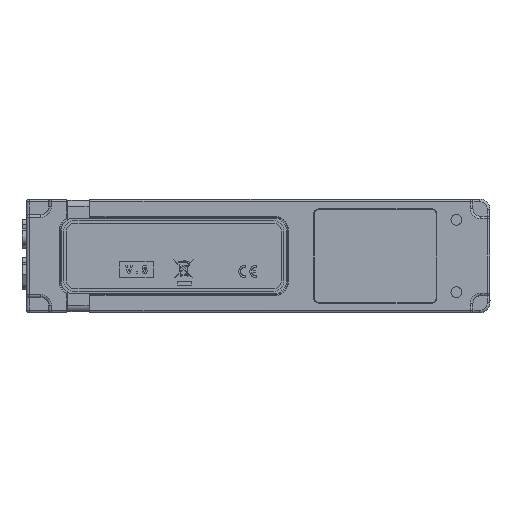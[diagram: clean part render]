
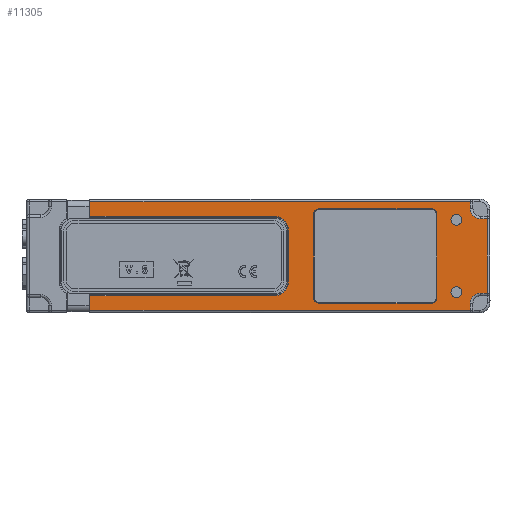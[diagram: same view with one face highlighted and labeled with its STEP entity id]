
A CAD part, left-side view. The second image highlights one B-rep face of the part: STEP entity #11305.
In plain terms, the highlighted planar face has unit normal (-1, 0, 0).
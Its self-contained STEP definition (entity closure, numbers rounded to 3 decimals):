
#11305=ADVANCED_FACE('',(#13157,#13158,#13159,#13160),#12029,.T.);
#12029=PLANE('',#47133);
#12631=CIRCLE('',#47047,1.8);
#12634=CIRCLE('',#47052,1.8);
#12637=CIRCLE('',#47057,1.8);
#12639=CIRCLE('',#47061,1.8);
#12643=CIRCLE('',#47067,4.);
#12646=CIRCLE('',#47073,4.);
#12650=CIRCLE('',#47078,5.3);
#12653=CIRCLE('',#47083,5.3);
#12654=CIRCLE('',#47085,2.1);
#12655=CIRCLE('',#47087,2.1);
#13157=FACE_BOUND('',#14211,.T.);
#13158=FACE_BOUND('',#14212,.T.);
#13159=FACE_BOUND('',#14213,.T.);
#13160=FACE_BOUND('',#14214,.T.);
#14211=EDGE_LOOP('',(#26351,#26352,#26353,#26354,#26355,#26356,#26357,#26358));
#14212=EDGE_LOOP('',(#26359,#26360,#26361,#26362,#26363,#26364,#26365,#26366,
#26367,#26368,#26369,#26370,#26371,#26372,#26373,#26374));
#14213=EDGE_LOOP('',(#26375));
#14214=EDGE_LOOP('',(#26376));
#26351=ORIENTED_EDGE('',*,*,#39626,.T.);
#26352=ORIENTED_EDGE('',*,*,#39628,.T.);
#26353=ORIENTED_EDGE('',*,*,#39630,.T.);
#26354=ORIENTED_EDGE('',*,*,#39632,.T.);
#26355=ORIENTED_EDGE('',*,*,#39634,.T.);
#26356=ORIENTED_EDGE('',*,*,#39636,.T.);
#26357=ORIENTED_EDGE('',*,*,#39638,.T.);
#26358=ORIENTED_EDGE('',*,*,#39639,.T.);
#26359=ORIENTED_EDGE('',*,*,#39697,.T.);
#26360=ORIENTED_EDGE('',*,*,#39732,.T.);
#26361=ORIENTED_EDGE('',*,*,#39733,.T.);
#26362=ORIENTED_EDGE('',*,*,#39641,.T.);
#26363=ORIENTED_EDGE('',*,*,#39645,.T.);
#26364=ORIENTED_EDGE('',*,*,#39646,.T.);
#26365=ORIENTED_EDGE('',*,*,#39681,.T.);
#26366=ORIENTED_EDGE('',*,*,#39648,.T.);
#26367=ORIENTED_EDGE('',*,*,#39651,.T.);
#26368=ORIENTED_EDGE('',*,*,#39663,.T.);
#26369=ORIENTED_EDGE('',*,*,#39734,.T.);
#26370=ORIENTED_EDGE('',*,*,#39735,.T.);
#26371=ORIENTED_EDGE('',*,*,#39731,.T.);
#26372=ORIENTED_EDGE('',*,*,#39655,.T.);
#26373=ORIENTED_EDGE('',*,*,#39657,.T.);
#26374=ORIENTED_EDGE('',*,*,#39659,.T.);
#26375=ORIENTED_EDGE('',*,*,#39660,.T.);
#26376=ORIENTED_EDGE('',*,*,#39661,.T.);
#33265=VERTEX_POINT('',#82440);
#33268=VERTEX_POINT('',#82447);
#33298=VERTEX_POINT('',#82524);
#33299=VERTEX_POINT('',#82526);
#33300=VERTEX_POINT('',#82530);
#33301=VERTEX_POINT('',#82534);
#33302=VERTEX_POINT('',#82538);
#33303=VERTEX_POINT('',#82542);
#33304=VERTEX_POINT('',#82546);
#33305=VERTEX_POINT('',#82550);
#33306=VERTEX_POINT('',#82556);
#33307=VERTEX_POINT('',#82558);
#33309=VERTEX_POINT('',#82564);
#33311=VERTEX_POINT('',#82571);
#33313=VERTEX_POINT('',#82577);
#33314=VERTEX_POINT('',#82582);
#33315=VERTEX_POINT('',#82584);
#33316=VERTEX_POINT('',#82588);
#33317=VERTEX_POINT('',#82592);
#33318=VERTEX_POINT('',#82596);
#33319=VERTEX_POINT('',#82599);
#33321=VERTEX_POINT('',#82603);
#33341=VERTEX_POINT('',#82684);
#33362=VERTEX_POINT('',#82752);
#33363=VERTEX_POINT('',#82756);
#33364=VERTEX_POINT('',#82759);
#39626=EDGE_CURVE('',#33298,#33299,#42162,.T.);
#39628=EDGE_CURVE('',#33299,#33300,#12631,.T.);
#39630=EDGE_CURVE('',#33300,#33301,#42163,.T.);
#39632=EDGE_CURVE('',#33301,#33302,#12634,.T.);
#39634=EDGE_CURVE('',#33302,#33303,#42164,.T.);
#39636=EDGE_CURVE('',#33303,#33304,#12637,.T.);
#39638=EDGE_CURVE('',#33304,#33305,#42165,.T.);
#39639=EDGE_CURVE('',#33305,#33298,#12639,.T.);
#39641=EDGE_CURVE('',#33307,#33306,#42166,.T.);
#39645=EDGE_CURVE('',#33306,#33309,#12643,.T.);
#39646=EDGE_CURVE('',#33309,#33268,#42168,.T.);
#39648=EDGE_CURVE('',#33265,#33311,#42169,.T.);
#39651=EDGE_CURVE('',#33311,#33313,#12646,.T.);
#39655=EDGE_CURVE('',#33314,#33315,#12650,.T.);
#39657=EDGE_CURVE('',#33315,#33316,#42171,.T.);
#39659=EDGE_CURVE('',#33316,#33317,#12653,.T.);
#39660=EDGE_CURVE('',#33318,#33318,#12654,.T.);
#39661=EDGE_CURVE('',#33319,#33319,#12655,.T.);
#39663=EDGE_CURVE('',#33313,#33321,#42172,.T.);
#39681=EDGE_CURVE('',#33268,#33265,#42185,.T.);
#39697=EDGE_CURVE('',#33317,#33341,#42196,.T.);
#39731=EDGE_CURVE('',#33362,#33314,#42222,.T.);
#39732=EDGE_CURVE('',#33341,#33363,#42223,.T.);
#39733=EDGE_CURVE('',#33363,#33307,#42224,.T.);
#39734=EDGE_CURVE('',#33321,#33364,#42225,.T.);
#39735=EDGE_CURVE('',#33364,#33362,#42226,.T.);
#42162=LINE('',#82527,#44544);
#42163=LINE('',#82535,#44545);
#42164=LINE('',#82543,#44546);
#42165=LINE('',#82551,#44547);
#42166=LINE('',#82557,#44548);
#42168=LINE('',#82567,#44550);
#42169=LINE('',#82572,#44551);
#42171=LINE('',#82589,#44553);
#42172=LINE('',#82604,#44554);
#42185=LINE('',#82654,#44567);
#42196=LINE('',#82685,#44578);
#42222=LINE('',#82753,#44604);
#42223=LINE('',#82755,#44605);
#42224=LINE('',#82757,#44606);
#42225=LINE('',#82758,#44607);
#42226=LINE('',#82760,#44608);
#44544=VECTOR('',#51699,1.);
#44545=VECTOR('',#51710,1.);
#44546=VECTOR('',#51721,1.);
#44547=VECTOR('',#51732,1.);
#44548=VECTOR('',#51741,1.);
#44550=VECTOR('',#51753,1.);
#44551=VECTOR('',#51758,1.);
#44553=VECTOR('',#51780,1.);
#44554=VECTOR('',#51799,1.);
#44567=VECTOR('',#51836,1.);
#44578=VECTOR('',#51865,1.);
#44604=VECTOR('',#51933,1.);
#44605=VECTOR('',#51936,1.);
#44606=VECTOR('',#51937,1.);
#44607=VECTOR('',#51938,1.);
#44608=VECTOR('',#51939,1.);
#47047=AXIS2_PLACEMENT_3D('',#82531,#51704,#51705);
#47052=AXIS2_PLACEMENT_3D('',#82539,#51715,#51716);
#47057=AXIS2_PLACEMENT_3D('',#82547,#51726,#51727);
#47061=AXIS2_PLACEMENT_3D('',#82553,#51735,#51736);
#47067=AXIS2_PLACEMENT_3D('',#82565,#51749,#51750);
#47073=AXIS2_PLACEMENT_3D('',#82578,#51764,#51765);
#47078=AXIS2_PLACEMENT_3D('',#82585,#51774,#51775);
#47083=AXIS2_PLACEMENT_3D('',#82593,#51785,#51786);
#47085=AXIS2_PLACEMENT_3D('',#82595,#51789,#51790);
#47087=AXIS2_PLACEMENT_3D('',#82598,#51793,#51794);
#47133=AXIS2_PLACEMENT_3D('',#82761,#51940,#51941);
#51699=DIRECTION('',(0.,0.,1.));
#51704=DIRECTION('',(1.,0.,0.));
#51705=DIRECTION('',(0.,-1.,0.));
#51710=DIRECTION('',(0.,-1.,0.));
#51715=DIRECTION('',(1.,0.,0.));
#51716=DIRECTION('',(0.,-1.,0.));
#51721=DIRECTION('',(0.,0.,-1.));
#51726=DIRECTION('',(1.,0.,0.));
#51727=DIRECTION('',(0.,-1.,0.));
#51732=DIRECTION('',(0.,1.,0.));
#51735=DIRECTION('',(1.,0.,0.));
#51736=DIRECTION('',(0.,-1.,0.));
#51741=DIRECTION('',(0.,0.,1.));
#51749=DIRECTION('',(1.,0.,0.));
#51750=DIRECTION('',(0.,-1.,0.));
#51753=DIRECTION('',(0.,-1.,0.));
#51758=DIRECTION('',(0.,1.,0.));
#51764=DIRECTION('',(1.,0.,0.));
#51765=DIRECTION('',(0.,-1.,0.));
#51774=DIRECTION('',(1.,0.,0.));
#51775=DIRECTION('',(0.,-1.,0.));
#51780=DIRECTION('',(0.,0.,-1.));
#51785=DIRECTION('',(1.,0.,0.));
#51786=DIRECTION('',(0.,-1.,0.));
#51789=DIRECTION('',(1.,0.,0.));
#51790=DIRECTION('',(0.,1.,0.));
#51793=DIRECTION('',(1.,0.,0.));
#51794=DIRECTION('',(0.,1.,0.));
#51799=DIRECTION('',(0.,0.,1.));
#51836=DIRECTION('',(0.,0.,1.));
#51865=DIRECTION('',(0.,1.,0.));
#51933=DIRECTION('',(0.,-1.,0.));
#51936=DIRECTION('',(0.,0.,-1.));
#51937=DIRECTION('',(0.,-1.,0.));
#51938=DIRECTION('',(0.,1.,0.));
#51939=DIRECTION('',(0.,0.,-1.));
#51940=DIRECTION('',(-1.,0.,0.));
#51941=DIRECTION('',(0.,-1.,0.));
#82440=CARTESIAN_POINT('',(-292.,1.008,36.443));
#82447=CARTESIAN_POINT('',(-292.,1.008,7.643));
#82524=CARTESIAN_POINT('',(-292.,68.158,5.643));
#82526=CARTESIAN_POINT('',(-292.,68.158,38.443));
#82527=CARTESIAN_POINT('',(-292.,68.158,38.443));
#82530=CARTESIAN_POINT('',(-292.,66.358,40.243));
#82531=CARTESIAN_POINT('',(-292.,66.358,38.443));
#82534=CARTESIAN_POINT('',(-292.,22.358,40.243));
#82535=CARTESIAN_POINT('',(-292.,22.358,40.243));
#82538=CARTESIAN_POINT('',(-292.,20.558,38.443));
#82539=CARTESIAN_POINT('',(-292.,22.358,38.443));
#82542=CARTESIAN_POINT('',(-292.,20.558,5.643));
#82543=CARTESIAN_POINT('',(-292.,20.558,5.643));
#82546=CARTESIAN_POINT('',(-292.,22.358,3.843));
#82547=CARTESIAN_POINT('',(-292.,22.358,5.643));
#82550=CARTESIAN_POINT('',(-292.,66.358,3.843));
#82551=CARTESIAN_POINT('',(-292.,66.358,3.843));
#82553=CARTESIAN_POINT('',(-292.,66.358,5.643));
#82556=CARTESIAN_POINT('',(-292.,7.608,3.643));
#82557=CARTESIAN_POINT('',(-292.,7.608,3.643));
#82558=CARTESIAN_POINT('',(-292.,7.608,1.043));
#82564=CARTESIAN_POINT('',(-292.,3.608,7.643));
#82565=CARTESIAN_POINT('',(-292.,3.608,3.643));
#82567=CARTESIAN_POINT('',(-292.,0.008,7.643));
#82571=CARTESIAN_POINT('',(-292.,3.608,36.443));
#82572=CARTESIAN_POINT('',(-292.,3.608,36.443));
#82577=CARTESIAN_POINT('',(-292.,7.608,40.443));
#82578=CARTESIAN_POINT('',(-292.,3.608,40.443));
#82582=CARTESIAN_POINT('',(-292.,83.358,37.343));
#82584=CARTESIAN_POINT('',(-292.,78.058,32.043));
#82585=CARTESIAN_POINT('',(-292.,83.358,32.043));
#82588=CARTESIAN_POINT('',(-292.,78.058,12.043));
#82589=CARTESIAN_POINT('',(-292.,78.058,12.043));
#82592=CARTESIAN_POINT('',(-292.,83.358,6.743));
#82593=CARTESIAN_POINT('',(-292.,83.358,12.043));
#82595=CARTESIAN_POINT('',(-292.,13.008,36.043));
#82596=CARTESIAN_POINT('',(-292.,15.108,36.043));
#82598=CARTESIAN_POINT('',(-292.,13.008,8.043));
#82599=CARTESIAN_POINT('',(-292.,15.108,8.043));
#82603=CARTESIAN_POINT('',(-292.,7.608,43.043));
#82604=CARTESIAN_POINT('',(-292.,7.608,44.043));
#82654=CARTESIAN_POINT('',(-292.,1.008,22.043));
#82684=CARTESIAN_POINT('',(-292.,154.808,6.743));
#82685=CARTESIAN_POINT('',(-292.,155.108,6.743));
#82752=CARTESIAN_POINT('',(-292.,154.808,37.343));
#82753=CARTESIAN_POINT('',(-292.,83.358,37.343));
#82755=CARTESIAN_POINT('',(-292.,154.808,1.043));
#82756=CARTESIAN_POINT('',(-292.,154.808,1.043));
#82757=CARTESIAN_POINT('',(-292.,89.683,1.043));
#82758=CARTESIAN_POINT('',(-292.,89.683,43.043));
#82759=CARTESIAN_POINT('',(-292.,154.808,43.043));
#82760=CARTESIAN_POINT('',(-292.,154.808,37.043));
#82761=CARTESIAN_POINT('',(-292.,89.683,22.043));
